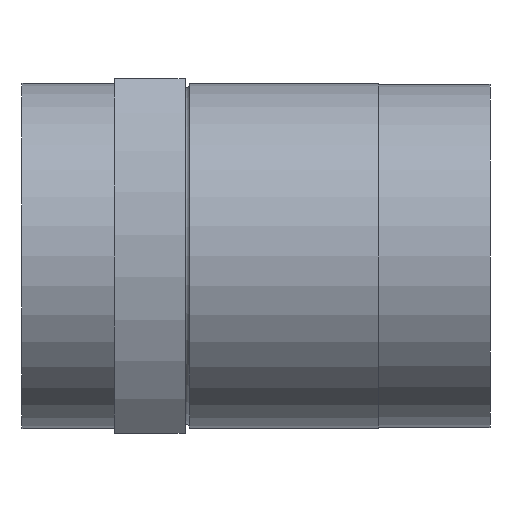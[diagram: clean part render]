
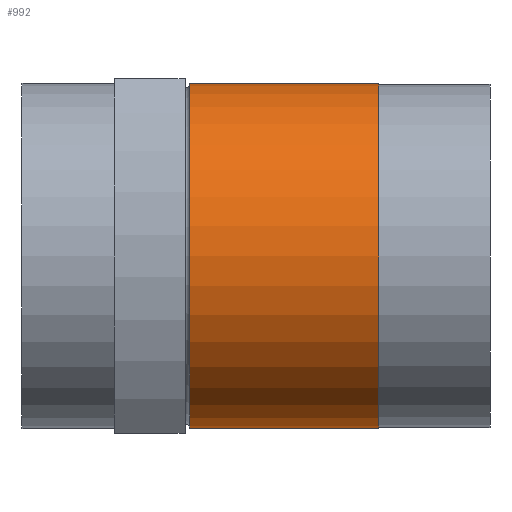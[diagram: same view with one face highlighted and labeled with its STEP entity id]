
A CAD part, front view. The second image highlights one B-rep face of the part: STEP entity #992.
In plain terms, the highlighted cylindrical face has radius 36.5 mm (diameter 73 mm), a partial arc.
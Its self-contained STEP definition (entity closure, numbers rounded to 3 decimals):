
#7 = DIRECTION ( 'NONE',  ( 1., 0., 0. ) ) ;
#16 = CARTESIAN_POINT ( 'NONE',  ( 75.5, 0., 0. ) ) ;
#67 = DIRECTION ( 'NONE',  ( -1., 0., 0. ) ) ;
#79 = VERTEX_POINT ( 'NONE', #735 ) ;
#120 = AXIS2_PLACEMENT_3D ( 'NONE', #282, #7, #959 ) ;
#136 = EDGE_CURVE ( 'NONE', #79, #1012, #1024, .T. ) ;
#153 = CARTESIAN_POINT ( 'NONE',  ( 35.5, 0., 0. ) ) ;
#184 = DIRECTION ( 'NONE',  ( -1., 0., 0. ) ) ;
#255 = VERTEX_POINT ( 'NONE', #408 ) ;
#258 = DIRECTION ( 'NONE',  ( 0., 0., 1. ) ) ;
#282 = CARTESIAN_POINT ( 'NONE',  ( -162.833, 0., 0. ) ) ;
#309 = EDGE_LOOP ( 'NONE', ( #509, #896, #802, #746 ) ) ;
#345 = EDGE_CURVE ( 'NONE', #255, #79, #492, .T. ) ;
#408 = CARTESIAN_POINT ( 'NONE',  ( 35.5, 0., -36.5 ) ) ;
#451 = LINE ( 'NONE', #541, #1023 ) ;
#478 = CIRCLE ( 'NONE', #955, 36.5 ) ;
#492 = CIRCLE ( 'NONE', #493, 36.5 ) ;
#493 = AXIS2_PLACEMENT_3D ( 'NONE', #153, #67, #258 ) ;
#509 = ORIENTED_EDGE ( 'NONE', *, *, #136, .F. ) ;
#541 = CARTESIAN_POINT ( 'NONE',  ( -162.833, 0., -36.5 ) ) ;
#549 = DIRECTION ( 'NONE',  ( 1., 0., 0. ) ) ;
#636 = CARTESIAN_POINT ( 'NONE',  ( 75.5, 0., 36.5 ) ) ;
#650 = VERTEX_POINT ( 'NONE', #778 ) ;
#699 = EDGE_CURVE ( 'NONE', #650, #1012, #478, .T. ) ;
#735 = CARTESIAN_POINT ( 'NONE',  ( 35.5, 0., 36.5 ) ) ;
#746 = ORIENTED_EDGE ( 'NONE', *, *, #699, .T. ) ;
#778 = CARTESIAN_POINT ( 'NONE',  ( 75.5, 0., -36.5 ) ) ;
#796 = DIRECTION ( 'NONE',  ( 0., 0., -1. ) ) ;
#802 = ORIENTED_EDGE ( 'NONE', *, *, #808, .T. ) ;
#808 = EDGE_CURVE ( 'NONE', #255, #650, #451, .T. ) ;
#826 = DIRECTION ( 'NONE',  ( 1., 0., 0. ) ) ;
#880 = FACE_OUTER_BOUND ( 'NONE', #309, .T. ) ;
#896 = ORIENTED_EDGE ( 'NONE', *, *, #345, .F. ) ;
#917 = CYLINDRICAL_SURFACE ( 'NONE', #120, 36.5 ) ;
#955 = AXIS2_PLACEMENT_3D ( 'NONE', #16, #184, #796 ) ;
#959 = DIRECTION ( 'NONE',  ( 0., 0., -1. ) ) ;
#992 = ADVANCED_FACE ( 'NONE', ( #880 ), #917, .T. ) ;
#1012 = VERTEX_POINT ( 'NONE', #636 ) ;
#1023 = VECTOR ( 'NONE', #549, 1000. ) ;
#1024 = LINE ( 'NONE', #1067, #1037 ) ;
#1037 = VECTOR ( 'NONE', #826, 1000. ) ;
#1067 = CARTESIAN_POINT ( 'NONE',  ( -162.833, 0., 36.5 ) ) ;
